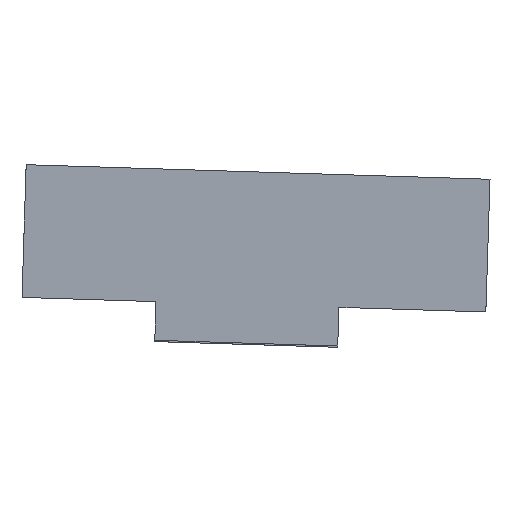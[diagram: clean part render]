
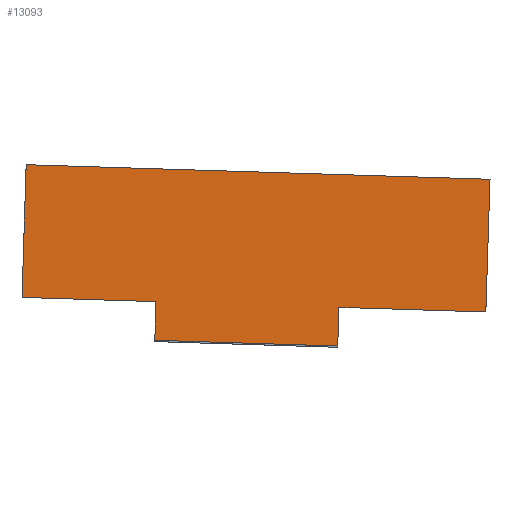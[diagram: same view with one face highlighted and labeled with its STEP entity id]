
A CAD part, front view. The second image highlights one B-rep face of the part: STEP entity #13093.
In plain terms, the highlighted planar face has unit normal (0, -1, 0).
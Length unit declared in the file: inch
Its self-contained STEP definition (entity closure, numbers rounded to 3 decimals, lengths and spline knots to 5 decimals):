
#380 = EDGE_LOOP ( 'NONE', ( #30437, #28555, #13697, #2608, #19275, #31498, #30397, #11212 ) ) ;
#721 = LINE ( 'NONE', #11168, #21220 ) ;
#1082 = VECTOR ( 'NONE', #22180, 39.37008 ) ;
#1094 = PLANE ( 'NONE',  #22025 ) ;
#1542 = CARTESIAN_POINT ( 'NONE',  ( 11.4, -3.66726, 4.67778 ) ) ;
#2259 = DIRECTION ( 'NONE',  ( -1., 0., 0. ) ) ;
#2339 = VECTOR ( 'NONE', #2259, 39.37008 ) ;
#2608 = ORIENTED_EDGE ( 'NONE', *, *, #3430, .T. ) ;
#3192 = EDGE_CURVE ( 'NONE', #20211, #17004, #7521, .T. ) ;
#3430 = EDGE_CURVE ( 'NONE', #20211, #3920, #18808, .T. ) ;
#3707 = EDGE_CURVE ( 'NONE', #6114, #3920, #15602, .T. ) ;
#3920 = VERTEX_POINT ( 'NONE', #8204 ) ;
#4769 = LINE ( 'NONE', #24202, #25119 ) ;
#5145 = CARTESIAN_POINT ( 'NONE',  ( 36., -3.66726, -5.62222 ) ) ;
#5869 = DIRECTION ( 'NONE',  ( 0., 0., -1. ) ) ;
#5958 = VERTEX_POINT ( 'NONE', #18539 ) ;
#6114 = VERTEX_POINT ( 'NONE', #17423 ) ;
#6214 = VERTEX_POINT ( 'NONE', #15656 ) ;
#6330 = DIRECTION ( 'NONE',  ( 1., 0., 0. ) ) ;
#6334 = DIRECTION ( 'NONE',  ( 0., 0., 1. ) ) ;
#7521 = LINE ( 'NONE', #5145, #1082 ) ;
#8204 = CARTESIAN_POINT ( 'NONE',  ( 25.6, -3.66726, 4.67778 ) ) ;
#9158 = EDGE_CURVE ( 'NONE', #30869, #11989, #31253, .T. ) ;
#9394 = DIRECTION ( 'NONE',  ( 0., 0., -1. ) ) ;
#9839 = CARTESIAN_POINT ( 'NONE',  ( 36., -3.66726, 4.67778 ) ) ;
#11168 = CARTESIAN_POINT ( 'NONE',  ( 11.4, -3.66726, 7.67778 ) ) ;
#11212 = ORIENTED_EDGE ( 'NONE', *, *, #9158, .T. ) ;
#11959 = DIRECTION ( 'NONE',  ( -1., 0., 0. ) ) ;
#11989 = VERTEX_POINT ( 'NONE', #27557 ) ;
#12665 = DIRECTION ( 'NONE',  ( 0., 0., -1. ) ) ;
#13093 = ADVANCED_FACE ( 'NONE', ( #28500 ), #1094, .F. ) ;
#13505 = CARTESIAN_POINT ( 'NONE',  ( 11.4, -3.66726, 7.67778 ) ) ;
#13697 = ORIENTED_EDGE ( 'NONE', *, *, #3192, .F. ) ;
#15602 = LINE ( 'NONE', #23228, #28804 ) ;
#15656 = CARTESIAN_POINT ( 'NONE',  ( 0., -3.66726, -5.62222 ) ) ;
#16650 = EDGE_CURVE ( 'NONE', #17004, #6214, #29195, .T. ) ;
#17004 = VERTEX_POINT ( 'NONE', #18619 ) ;
#17111 = EDGE_CURVE ( 'NONE', #11989, #6214, #4769, .T. ) ;
#17423 = CARTESIAN_POINT ( 'NONE',  ( 25.6, -3.66726, 7.67778 ) ) ;
#18539 = CARTESIAN_POINT ( 'NONE',  ( 11.4, -3.66726, 7.67778 ) ) ;
#18594 = DIRECTION ( 'NONE',  ( 0., 1., 0. ) ) ;
#18619 = CARTESIAN_POINT ( 'NONE',  ( 36., -3.66726, -5.62222 ) ) ;
#18808 = LINE ( 'NONE', #31097, #25717 ) ;
#19233 = VECTOR ( 'NONE', #6330, 39.37008 ) ;
#19275 = ORIENTED_EDGE ( 'NONE', *, *, #3707, .F. ) ;
#20211 = VERTEX_POINT ( 'NONE', #9839 ) ;
#20498 = CARTESIAN_POINT ( 'NONE',  ( 36., -3.66726, -5.62222 ) ) ;
#20699 = EDGE_CURVE ( 'NONE', #5958, #30869, #721, .T. ) ;
#21220 = VECTOR ( 'NONE', #12665, 39.37008 ) ;
#21847 = DIRECTION ( 'NONE',  ( -1., 0., 0. ) ) ;
#22025 = AXIS2_PLACEMENT_3D ( 'NONE', #20498, #18594, #6334 ) ;
#22180 = DIRECTION ( 'NONE',  ( 0., 0., -1. ) ) ;
#23228 = CARTESIAN_POINT ( 'NONE',  ( 25.6, -3.66726, 7.67778 ) ) ;
#23696 = LINE ( 'NONE', #13505, #19233 ) ;
#24202 = CARTESIAN_POINT ( 'NONE',  ( 0., -3.66726, -5.62222 ) ) ;
#25119 = VECTOR ( 'NONE', #9394, 39.37008 ) ;
#25717 = VECTOR ( 'NONE', #11959, 39.37008 ) ;
#26933 = CARTESIAN_POINT ( 'NONE',  ( 36., -3.66726, 4.67778 ) ) ;
#27557 = CARTESIAN_POINT ( 'NONE',  ( 0., -3.66726, 4.67778 ) ) ;
#27634 = VECTOR ( 'NONE', #21847, 39.37008 ) ;
#28500 = FACE_OUTER_BOUND ( 'NONE', #380, .T. ) ;
#28555 = ORIENTED_EDGE ( 'NONE', *, *, #16650, .F. ) ;
#28804 = VECTOR ( 'NONE', #5869, 39.37008 ) ;
#29195 = LINE ( 'NONE', #29356, #27634 ) ;
#29356 = CARTESIAN_POINT ( 'NONE',  ( 36., -3.66726, -5.62222 ) ) ;
#30330 = EDGE_CURVE ( 'NONE', #5958, #6114, #23696, .T. ) ;
#30397 = ORIENTED_EDGE ( 'NONE', *, *, #20699, .T. ) ;
#30437 = ORIENTED_EDGE ( 'NONE', *, *, #17111, .T. ) ;
#30869 = VERTEX_POINT ( 'NONE', #1542 ) ;
#31097 = CARTESIAN_POINT ( 'NONE',  ( 36., -3.66726, 4.67778 ) ) ;
#31253 = LINE ( 'NONE', #26933, #2339 ) ;
#31498 = ORIENTED_EDGE ( 'NONE', *, *, #30330, .F. ) ;
